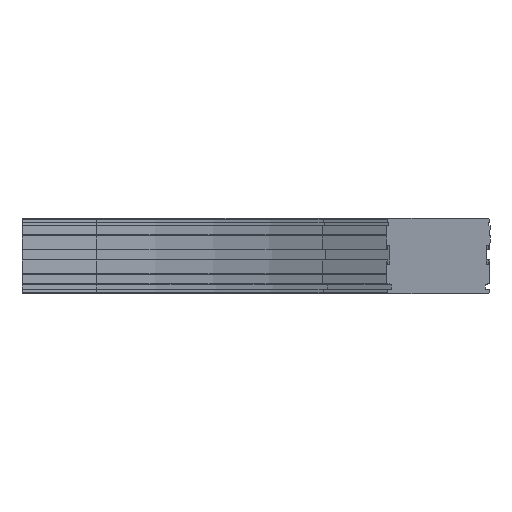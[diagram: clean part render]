
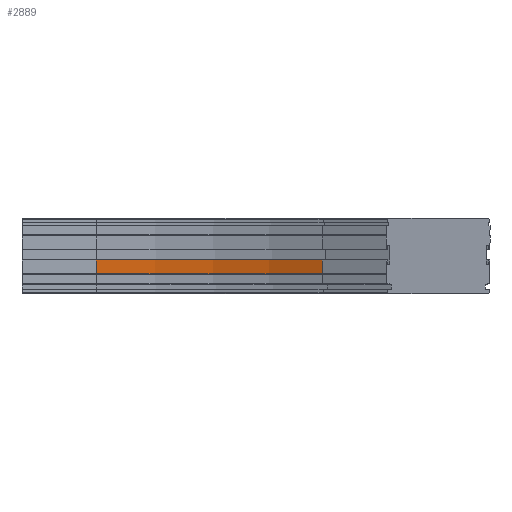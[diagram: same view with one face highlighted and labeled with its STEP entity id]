
A CAD part, front view. The second image highlights one B-rep face of the part: STEP entity #2889.
In plain terms, the highlighted cylindrical face has radius 488 mm (diameter 976 mm), a partial arc.
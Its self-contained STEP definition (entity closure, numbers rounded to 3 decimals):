
#1436=CARTESIAN_POINT('',(324.,-177.38,-60.));
#1437=VERTEX_POINT('',#1436);
#1467=CARTESIAN_POINT('',(324.,-177.38,-45.));
#1468=VERTEX_POINT('',#1467);
#1475=CARTESIAN_POINT('',(324.,-177.38,-60.));
#1476=DIRECTION('',(0.0,0.0,1.0));
#1477=VECTOR('',#1476,15.);
#1478=LINE('',#1475,#1477);
#1479=EDGE_CURVE('',#1437,#1468,#1478,.T.);
#2846=CARTESIAN_POINT('',(80.0,-112.,-60.));
#2847=VERTEX_POINT('',#2846);
#2848=CARTESIAN_POINT('',(80.0,-600.0,-60.));
#2849=DIRECTION('',(0.,0.,-1.0));
#2850=DIRECTION('',(-0.5,-0.866,0.));
#2851=AXIS2_PLACEMENT_3D('',#2848,#2849,#2850);
#2852=CIRCLE('',#2851,488.);
#2853=EDGE_CURVE('',#2847,#1437,#2852,.T.);
#2865=CARTESIAN_POINT('',(80.0,-600.0,-52.5));
#2866=DIRECTION('',(0.0,0.,-1.0));
#2867=DIRECTION('',(-0.5,-0.866,0.));
#2868=AXIS2_PLACEMENT_3D('',#2865,#2866,#2867);
#2869=CYLINDRICAL_SURFACE('',#2868,488.);
#2870=ORIENTED_EDGE('',*,*,#1479,.T.);
#2871=CARTESIAN_POINT('',(80.0,-112.,-45.));
#2872=VERTEX_POINT('',#2871);
#2873=CARTESIAN_POINT('',(80.0,-600.0,-45.));
#2874=DIRECTION('',(0.,0.,-1.0));
#2875=DIRECTION('',(-0.5,-0.866,0.));
#2876=AXIS2_PLACEMENT_3D('',#2873,#2874,#2875);
#2877=CIRCLE('',#2876,488.);
#2878=EDGE_CURVE('',#2872,#1468,#2877,.T.);
#2879=ORIENTED_EDGE('',*,*,#2878,.F.);
#2880=CARTESIAN_POINT('',(80.0,-112.,-60.));
#2881=DIRECTION('',(0.0,0.0,1.0));
#2882=VECTOR('',#2881,15.);
#2883=LINE('',#2880,#2882);
#2884=EDGE_CURVE('',#2847,#2872,#2883,.T.);
#2885=ORIENTED_EDGE('',*,*,#2884,.F.);
#2886=ORIENTED_EDGE('',*,*,#2853,.T.);
#2887=EDGE_LOOP('',(#2870,#2879,#2885,#2886));
#2888=FACE_OUTER_BOUND('',#2887,.T.);
#2889=ADVANCED_FACE('',(#2888),#2869,.F.);
